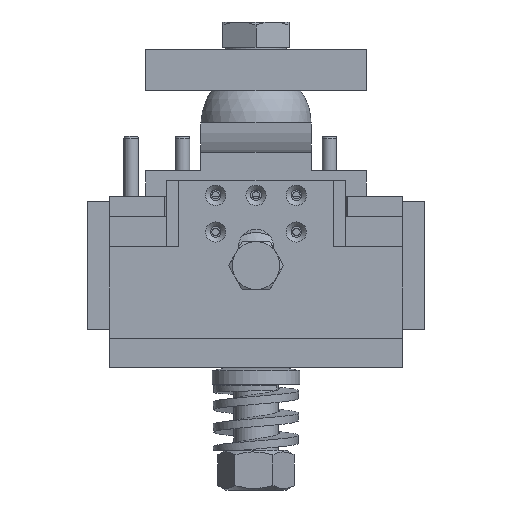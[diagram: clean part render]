
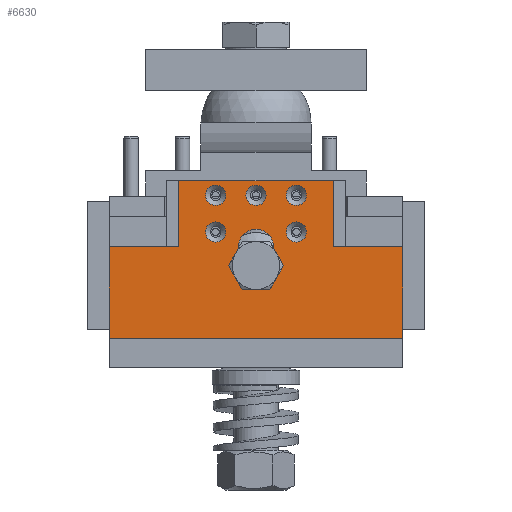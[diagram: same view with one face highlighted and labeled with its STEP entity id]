
A CAD part, left-side view. The second image highlights one B-rep face of the part: STEP entity #6630.
In plain terms, the highlighted planar face has unit normal (-1, 0, 0).
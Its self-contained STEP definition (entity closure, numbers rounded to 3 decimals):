
#340=FACE_BOUND('',#1240,.T.);
#341=FACE_BOUND('',#1241,.T.);
#342=FACE_BOUND('',#1242,.T.);
#343=FACE_BOUND('',#1243,.T.);
#344=FACE_BOUND('',#1244,.T.);
#345=FACE_BOUND('',#1245,.T.);
#470=PLANE('',#7515);
#828=FACE_OUTER_BOUND('',#1239,.T.);
#1239=EDGE_LOOP('',(#4933,#4934,#4935,#4936,#4937,#4938,#4939,#4940));
#1240=EDGE_LOOP('',(#4941));
#1241=EDGE_LOOP('',(#4942));
#1242=EDGE_LOOP('',(#4943));
#1243=EDGE_LOOP('',(#4944));
#1244=EDGE_LOOP('',(#4945));
#1245=EDGE_LOOP('',(#4946,#4947,#4948,#4949));
#1722=LINE('',#10330,#2284);
#1725=LINE('',#10335,#2287);
#1727=LINE('',#10339,#2289);
#1764=LINE('',#10452,#2326);
#1767=LINE('',#10457,#2329);
#1774=LINE('',#10471,#2336);
#1775=LINE('',#10474,#2337);
#1776=LINE('',#10475,#2338);
#1777=LINE('',#10478,#2339);
#1778=LINE('',#10482,#2340);
#2284=VECTOR('',#8343,10.);
#2287=VECTOR('',#8348,10.);
#2289=VECTOR('',#8352,10.);
#2326=VECTOR('',#8465,10.);
#2329=VECTOR('',#8470,10.);
#2336=VECTOR('',#8483,10.);
#2337=VECTOR('',#8486,10.);
#2338=VECTOR('',#8487,10.);
#2339=VECTOR('',#8488,10.);
#2340=VECTOR('',#8491,10.);
#2821=CIRCLE('',#7444,2.75);
#2824=CIRCLE('',#7449,2.75);
#2827=CIRCLE('',#7454,2.75);
#2830=CIRCLE('',#7459,2.75);
#2833=CIRCLE('',#7464,2.75);
#2856=CIRCLE('',#7516,4.75);
#2857=CIRCLE('',#7517,4.75);
#3119=VERTEX_POINT('',#10264);
#3122=VERTEX_POINT('',#10274);
#3125=VERTEX_POINT('',#10284);
#3128=VERTEX_POINT('',#10294);
#3131=VERTEX_POINT('',#10304);
#3140=VERTEX_POINT('',#10327);
#3141=VERTEX_POINT('',#10329);
#3142=VERTEX_POINT('',#10333);
#3143=VERTEX_POINT('',#10337);
#3180=VERTEX_POINT('',#10449);
#3181=VERTEX_POINT('',#10451);
#3182=VERTEX_POINT('',#10455);
#3187=VERTEX_POINT('',#10473);
#3188=VERTEX_POINT('',#10476);
#3189=VERTEX_POINT('',#10477);
#3190=VERTEX_POINT('',#10479);
#3191=VERTEX_POINT('',#10481);
#3756=EDGE_CURVE('',#3119,#3119,#2821,.T.);
#3761=EDGE_CURVE('',#3122,#3122,#2824,.T.);
#3766=EDGE_CURVE('',#3125,#3125,#2827,.T.);
#3771=EDGE_CURVE('',#3128,#3128,#2830,.T.);
#3776=EDGE_CURVE('',#3131,#3131,#2833,.T.);
#3788=EDGE_CURVE('',#3141,#3140,#1722,.T.);
#3791=EDGE_CURVE('',#3140,#3142,#1725,.T.);
#3793=EDGE_CURVE('',#3142,#3143,#1727,.T.);
#3848=EDGE_CURVE('',#3181,#3180,#1764,.T.);
#3851=EDGE_CURVE('',#3143,#3182,#1767,.T.);
#3859=EDGE_CURVE('',#3180,#3141,#1774,.T.);
#3860=EDGE_CURVE('',#3182,#3187,#1775,.T.);
#3861=EDGE_CURVE('',#3187,#3181,#1776,.T.);
#3862=EDGE_CURVE('',#3188,#3189,#1777,.T.);
#3863=EDGE_CURVE('',#3189,#3190,#2856,.T.);
#3864=EDGE_CURVE('',#3190,#3191,#1778,.T.);
#3865=EDGE_CURVE('',#3191,#3188,#2857,.T.);
#4933=ORIENTED_EDGE('',*,*,#3851,.T.);
#4934=ORIENTED_EDGE('',*,*,#3860,.T.);
#4935=ORIENTED_EDGE('',*,*,#3861,.T.);
#4936=ORIENTED_EDGE('',*,*,#3848,.T.);
#4937=ORIENTED_EDGE('',*,*,#3859,.T.);
#4938=ORIENTED_EDGE('',*,*,#3788,.T.);
#4939=ORIENTED_EDGE('',*,*,#3791,.T.);
#4940=ORIENTED_EDGE('',*,*,#3793,.T.);
#4941=ORIENTED_EDGE('',*,*,#3756,.T.);
#4942=ORIENTED_EDGE('',*,*,#3761,.T.);
#4943=ORIENTED_EDGE('',*,*,#3766,.T.);
#4944=ORIENTED_EDGE('',*,*,#3771,.T.);
#4945=ORIENTED_EDGE('',*,*,#3776,.T.);
#4946=ORIENTED_EDGE('',*,*,#3862,.T.);
#4947=ORIENTED_EDGE('',*,*,#3863,.T.);
#4948=ORIENTED_EDGE('',*,*,#3864,.T.);
#4949=ORIENTED_EDGE('',*,*,#3865,.T.);
#6630=ADVANCED_FACE('',(#828,#340,#341,#342,#343,#344,#345),#470,.T.);
#7444=AXIS2_PLACEMENT_3D('',#10265,#8273,#8274);
#7449=AXIS2_PLACEMENT_3D('',#10275,#8285,#8286);
#7454=AXIS2_PLACEMENT_3D('',#10285,#8297,#8298);
#7459=AXIS2_PLACEMENT_3D('',#10295,#8309,#8310);
#7464=AXIS2_PLACEMENT_3D('',#10305,#8321,#8322);
#7515=AXIS2_PLACEMENT_3D('',#10472,#8484,#8485);
#7516=AXIS2_PLACEMENT_3D('',#10480,#8489,#8490);
#7517=AXIS2_PLACEMENT_3D('',#10483,#8492,#8493);
#8273=DIRECTION('center_axis',(1.,0.,0.));
#8274=DIRECTION('ref_axis',(0.,0.,1.));
#8285=DIRECTION('center_axis',(1.,0.,0.));
#8286=DIRECTION('ref_axis',(0.,0.,1.));
#8297=DIRECTION('center_axis',(1.,0.,0.));
#8298=DIRECTION('ref_axis',(0.,0.,1.));
#8309=DIRECTION('center_axis',(1.,0.,0.));
#8310=DIRECTION('ref_axis',(0.,0.,1.));
#8321=DIRECTION('center_axis',(1.,0.,0.));
#8322=DIRECTION('ref_axis',(0.,0.,1.));
#8343=DIRECTION('',(0.,0.,1.));
#8348=DIRECTION('',(0.,1.,0.));
#8352=DIRECTION('',(0.,0.,-1.));
#8465=DIRECTION('',(0.,0.,1.));
#8470=DIRECTION('',(0.,1.,0.));
#8483=DIRECTION('',(0.,1.,0.));
#8484=DIRECTION('center_axis',(-1.,0.,0.));
#8485=DIRECTION('ref_axis',(0.,0.,1.));
#8486=DIRECTION('',(0.,0.,-1.));
#8487=DIRECTION('',(0.,-1.,0.));
#8488=DIRECTION('',(0.,0.,-1.));
#8489=DIRECTION('center_axis',(1.,0.,0.));
#8490=DIRECTION('ref_axis',(0.,1.,0.));
#8491=DIRECTION('',(0.,0.,1.));
#8492=DIRECTION('center_axis',(1.,0.,0.));
#8493=DIRECTION('ref_axis',(0.,-1.,0.));
#10264=CARTESIAN_POINT('',(-65.,-11.,16.25));
#10265=CARTESIAN_POINT('Origin',(-65.,-11.,19.));
#10274=CARTESIAN_POINT('',(-65.,-11.,26.25));
#10275=CARTESIAN_POINT('Origin',(-65.,-11.,29.));
#10284=CARTESIAN_POINT('',(-65.,0.,26.25));
#10285=CARTESIAN_POINT('Origin',(-65.,0.,29.));
#10294=CARTESIAN_POINT('',(-65.,11.,16.25));
#10295=CARTESIAN_POINT('Origin',(-65.,11.,19.));
#10304=CARTESIAN_POINT('',(-65.,11.,26.25));
#10305=CARTESIAN_POINT('Origin',(-65.,11.,29.));
#10327=CARTESIAN_POINT('',(-65.,-21.,33.));
#10329=CARTESIAN_POINT('',(-65.,-21.,15.));
#10330=CARTESIAN_POINT('',(-65.,-21.,22.25));
#10333=CARTESIAN_POINT('',(-65.,21.,33.));
#10335=CARTESIAN_POINT('',(-65.,-40.,33.));
#10337=CARTESIAN_POINT('',(-65.,21.,15.));
#10339=CARTESIAN_POINT('',(-65.,21.,22.25));
#10449=CARTESIAN_POINT('',(-65.,-40.,15.));
#10451=CARTESIAN_POINT('',(-65.,-40.,-10.));
#10452=CARTESIAN_POINT('',(-65.,-40.,-10.));
#10455=CARTESIAN_POINT('',(-65.,40.,15.));
#10457=CARTESIAN_POINT('',(-65.,15.25,15.));
#10471=CARTESIAN_POINT('',(-65.,-15.25,15.));
#10472=CARTESIAN_POINT('Origin',(-65.,0.,11.5));
#10473=CARTESIAN_POINT('',(-65.,40.,-10.));
#10474=CARTESIAN_POINT('',(-65.,40.,33.));
#10475=CARTESIAN_POINT('',(-65.,40.,-10.));
#10476=CARTESIAN_POINT('',(-65.,-4.75,15.));
#10477=CARTESIAN_POINT('',(-65.,-4.75,8.));
#10478=CARTESIAN_POINT('',(-65.,-4.75,13.25));
#10479=CARTESIAN_POINT('',(-65.,4.75,8.));
#10480=CARTESIAN_POINT('Origin',(-65.,0.,8.));
#10481=CARTESIAN_POINT('',(-65.,4.75,15.));
#10482=CARTESIAN_POINT('',(-65.,4.75,9.75));
#10483=CARTESIAN_POINT('Origin',(-65.,0.,15.));
